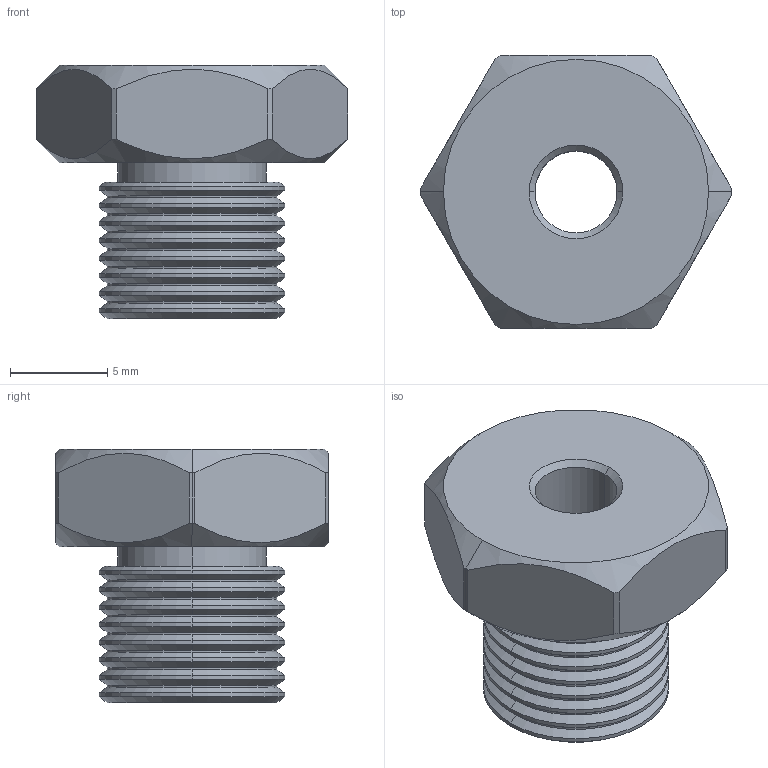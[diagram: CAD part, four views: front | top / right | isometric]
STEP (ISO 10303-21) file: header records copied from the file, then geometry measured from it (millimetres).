
FILE_DESCRIPTION (( 'STEP AP214' ), '1' );
FILE_NAME ('VM-G18M-M5F.STEP', '2023-03-06T03:35:49', ( 'Windows User' ), ( 'P R C' ), 'SwSTEP 2.0', 'SolidWorks 2019', '' );
FILE_SCHEMA (( 'AUTOMOTIVE_DESIGN' ));
Length unit declared in the file: millimetre
Products named in the file (1): VM-G18M-M5F
Bounding box: 16 x 14 x 13 mm (x, y, z)
Volume: 1155.4 mm3; surface area: 1032.2 mm2
Topology: 1 solids, 1 shells, 91 faces, 195 edges, 108 vertices
Faces by surface type: cylinder 41, cone 40, plane 10
Entity records: 2609 total; most frequent: CARTESIAN_POINT 551, DIRECTION 463, ORIENTED_EDGE 390, EDGE_CURVE 195, AXIS2_PLACEMENT_3D 188, VERTEX_POINT 108, CIRCLE 96, EDGE_LOOP 95
